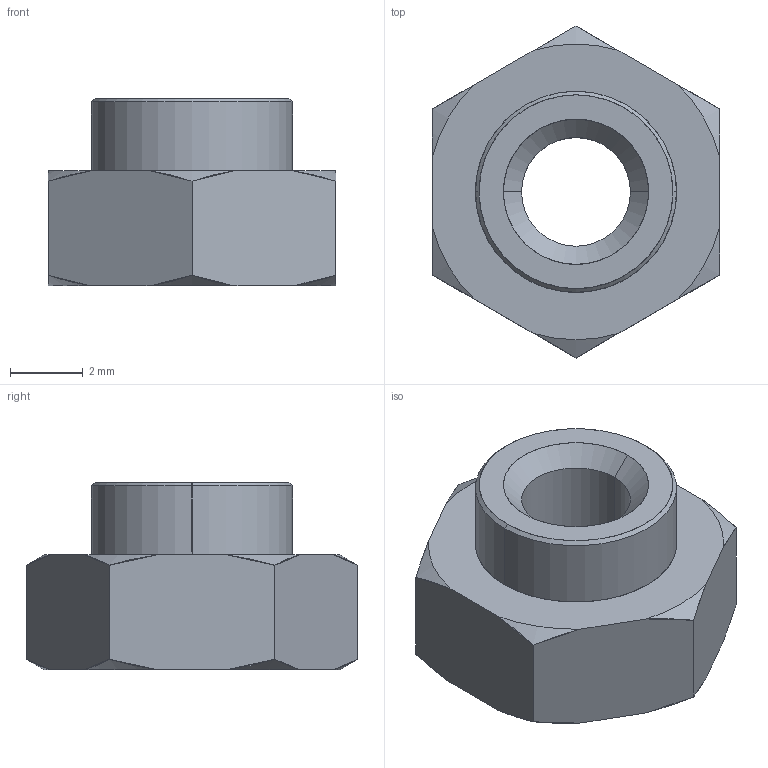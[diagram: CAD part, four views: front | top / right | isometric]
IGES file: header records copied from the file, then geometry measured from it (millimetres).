
Start section: SolidWorks IGES file using analytic representation for surfaces
Global section: file name: C:\Users\liam_\OneDrive\Desktop\Work\Mat Davis Pending 20181125\automotion\P SERIES\P0827.ZP_v2\P0827.ZP_v2_20181231_IGES\Default.igs; native system: SolidWorks 2017; preprocessor: SolidWorks 2017; author: liam_; date: 181231.110217; units: millimetre
Bounding box: 7.92 x 9.15 x 5.17 mm (x, y, z)
Surface area: 256 mm2 (no closed solid volume)
Topology: 0 solids, 0 shells, 31 faces, 336 edges, 336 vertices
Faces by surface type: revolution 22, bspline 9
